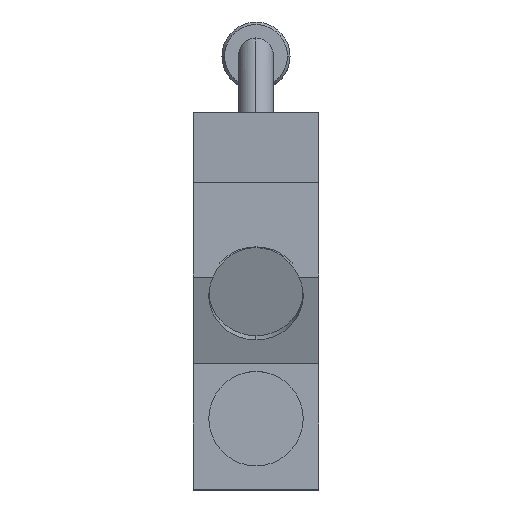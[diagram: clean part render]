
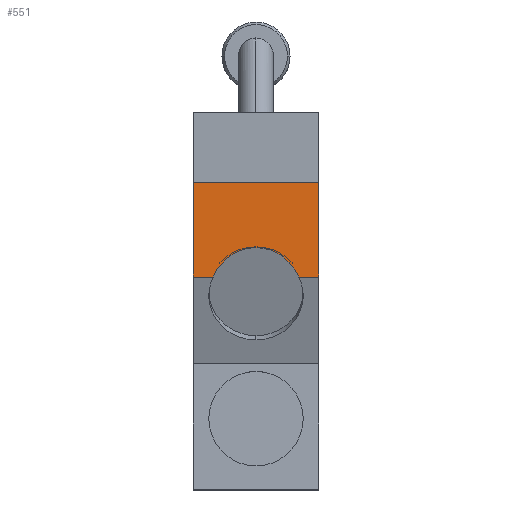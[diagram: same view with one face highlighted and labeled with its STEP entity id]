
A CAD part, top view. The second image highlights one B-rep face of the part: STEP entity #551.
In plain terms, the highlighted planar face has unit normal (0, 0, 1).
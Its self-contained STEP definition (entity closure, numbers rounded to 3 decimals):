
#16 = VERTEX_POINT ( 'NONE', #595 ) ;
#29 = VERTEX_POINT ( 'NONE', #614 ) ;
#31 = EDGE_CURVE ( 'NONE', #29, #16, #613, .T. ) ;
#316 = VERTEX_POINT ( 'NONE', #1147 ) ;
#317 = VERTEX_POINT ( 'NONE', #1146 ) ;
#333 = VERTEX_POINT ( 'NONE', #1192 ) ;
#339 = EDGE_CURVE ( 'NONE', #2085, #333, #1185, .T. ) ;
#382 = EDGE_CURVE ( 'NONE', #317, #316, #1251, .T. ) ;
#473 = EDGE_CURVE ( 'NONE', #29, #316, #1389, .T. ) ;
#474 = ORIENTED_EDGE ( 'NONE', *, *, #31, .T. ) ;
#475 = ORIENTED_EDGE ( 'NONE', *, *, #473, .F. ) ;
#477 = EDGE_LOOP ( 'NONE', ( #475, #474, #478, #546, #549, #547, #550 ) ) ;
#478 = ORIENTED_EDGE ( 'NONE', *, *, #552, .T. ) ;
#544 = EDGE_CURVE ( 'NONE', #333, #545, #1468, .T. ) ;
#545 = VERTEX_POINT ( 'NONE', #1519 ) ;
#546 = ORIENTED_EDGE ( 'NONE', *, *, #544, .F. ) ;
#547 = ORIENTED_EDGE ( 'NONE', *, *, #548, .T. ) ;
#548 = EDGE_CURVE ( 'NONE', #2085, #317, #1518, .T. ) ;
#549 = ORIENTED_EDGE ( 'NONE', *, *, #339, .F. ) ;
#550 = ORIENTED_EDGE ( 'NONE', *, *, #382, .T. ) ;
#551 = ADVANCED_FACE ( 'NONE', ( #1514 ), #1513, .F. ) ;
#552 = EDGE_CURVE ( 'NONE', #16, #545, #1508, .T. ) ;
#595 = CARTESIAN_POINT ( 'NONE',  ( 0., 15.362, 0. ) ) ;
#609 = CARTESIAN_POINT ( 'NONE',  ( 0., 15.362, 0. ) ) ;
#610 = CARTESIAN_POINT ( 'NONE',  ( -1.208, 15.362, 0. ) ) ;
#611 = CARTESIAN_POINT ( 'NONE',  ( -2.224, 14.668, 0. ) ) ;
#612 = CARTESIAN_POINT ( 'NONE',  ( -2.727, 13.5, 0. ) ) ;
#613 =( BOUNDED_CURVE ( )  B_SPLINE_CURVE ( 3, ( #612, #611, #610, #609 ),
 .UNSPECIFIED., .F., .T. ) 
 B_SPLINE_CURVE_WITH_KNOTS ( ( 4, 4 ),
 ( 2.001, 3.142 ),
 .UNSPECIFIED. ) 
 CURVE ( )  GEOMETRIC_REPRESENTATION_ITEM ( )  RATIONAL_B_SPLINE_CURVE ( ( 1., 0.894, 0.894, 1. ) ) 
 REPRESENTATION_ITEM ( '' )  );
#614 = CARTESIAN_POINT ( 'NONE',  ( -2.727, 13.5, 0. ) ) ;
#1146 = CARTESIAN_POINT ( 'NONE',  ( -4., 19.5, 0. ) ) ;
#1147 = CARTESIAN_POINT ( 'NONE',  ( -4., 13.5, 0. ) ) ;
#1182 = DIRECTION ( 'NONE',  ( 0., -1., 0. ) ) ;
#1183 = VECTOR ( 'NONE', #1182, 1000. ) ;
#1184 = CARTESIAN_POINT ( 'NONE',  ( 4., 0., 0. ) ) ;
#1185 = LINE ( 'NONE', #1184, #1183 ) ;
#1192 = CARTESIAN_POINT ( 'NONE',  ( 4., 13.5, 0. ) ) ;
#1248 = DIRECTION ( 'NONE',  ( 0., -1., 0. ) ) ;
#1249 = VECTOR ( 'NONE', #1248, 1000. ) ;
#1250 = CARTESIAN_POINT ( 'NONE',  ( -4., 0., 0. ) ) ;
#1251 = LINE ( 'NONE', #1250, #1249 ) ;
#1389 = LINE ( 'NONE', #1441, #1440 ) ;
#1439 = DIRECTION ( 'NONE',  ( -1., 0., 0. ) ) ;
#1440 = VECTOR ( 'NONE', #1439, 1000. ) ;
#1441 = CARTESIAN_POINT ( 'NONE',  ( 56.977, 13.5, 0. ) ) ;
#1468 = LINE ( 'NONE', #1522, #1521 ) ;
#1504 = CARTESIAN_POINT ( 'NONE',  ( 2.727, 13.5, 0. ) ) ;
#1505 = CARTESIAN_POINT ( 'NONE',  ( 2.224, 14.668, 0. ) ) ;
#1506 = CARTESIAN_POINT ( 'NONE',  ( 1.208, 15.362, 0. ) ) ;
#1507 = CARTESIAN_POINT ( 'NONE',  ( 0., 15.362, 0. ) ) ;
#1508 =( BOUNDED_CURVE ( )  B_SPLINE_CURVE ( 3, ( #1507, #1506, #1505, #1504 ),
 .UNSPECIFIED., .F., .T. ) 
 B_SPLINE_CURVE_WITH_KNOTS ( ( 4, 4 ),
 ( 3.142, 4.283 ),
 .UNSPECIFIED. ) 
 CURVE ( )  GEOMETRIC_REPRESENTATION_ITEM ( )  RATIONAL_B_SPLINE_CURVE ( ( 1., 0.894, 0.894, 1. ) ) 
 REPRESENTATION_ITEM ( '' )  );
#1509 = DIRECTION ( 'NONE',  ( 0., 1., 0. ) ) ;
#1510 = DIRECTION ( 'NONE',  ( 0., 0., -1. ) ) ;
#1511 = CARTESIAN_POINT ( 'NONE',  ( 4., 0., 0. ) ) ;
#1512 = AXIS2_PLACEMENT_3D ( 'NONE', #1511, #1510, #1509 ) ;
#1513 = PLANE ( 'NONE',  #1512 ) ;
#1514 = FACE_OUTER_BOUND ( 'NONE', #477, .T. ) ;
#1515 = DIRECTION ( 'NONE',  ( -1., 0., 0. ) ) ;
#1516 = VECTOR ( 'NONE', #1515, 1000. ) ;
#1517 = CARTESIAN_POINT ( 'NONE',  ( 56.977, 19.5, 0. ) ) ;
#1518 = LINE ( 'NONE', #1517, #1516 ) ;
#1519 = CARTESIAN_POINT ( 'NONE',  ( 2.727, 13.5, 0. ) ) ;
#1520 = DIRECTION ( 'NONE',  ( -1., 0., 0. ) ) ;
#1521 = VECTOR ( 'NONE', #1520, 1000. ) ;
#1522 = CARTESIAN_POINT ( 'NONE',  ( 56.977, 13.5, 0. ) ) ;
#1601 = CARTESIAN_POINT ( 'NONE',  ( 4., 19.5, 0. ) ) ;
#2085 = VERTEX_POINT ( 'NONE', #1601 ) ;
